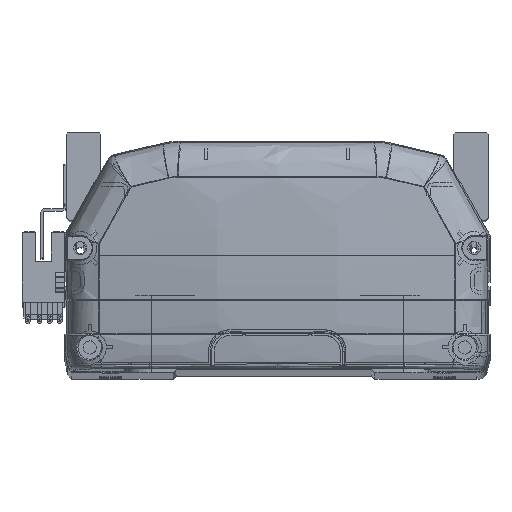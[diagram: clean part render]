
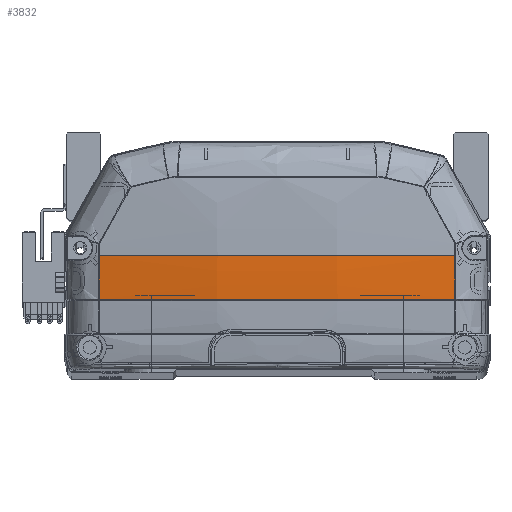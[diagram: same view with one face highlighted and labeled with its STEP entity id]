
A CAD part, top view. The second image highlights one B-rep face of the part: STEP entity #3832.
In plain terms, the highlighted free-form (B-spline) face has degree [3, 3] with [4, 4] control points.
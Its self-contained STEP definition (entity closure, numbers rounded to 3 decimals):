
#3116 = CIRCLE ( 'NONE', #40158, 6395.966 ) ;
#3739 = EDGE_CURVE ( 'NONE', #33902, #40423, #49126, .T. ) ;
#3832 = ADVANCED_FACE ( 'NONE', ( #4936 ), #13191, .T. ) ;
#4385 = ORIENTED_EDGE ( 'NONE', *, *, #57460, .F. ) ;
#4936 = FACE_OUTER_BOUND ( 'NONE', #25856, .T. ) ;
#5593 = ORIENTED_EDGE ( 'NONE', *, *, #7913, .F. ) ;
#5729 = CARTESIAN_POINT ( 'NONE',  ( -56.661, 22.225, -4.818 ) ) ;
#6479 = CARTESIAN_POINT ( 'NONE',  ( 4.761, 22.225, -9.537 ) ) ;
#6684 = CARTESIAN_POINT ( 'NONE',  ( 1.152, 22.225, -9.568 ) ) ;
#7115 = CARTESIAN_POINT ( 'NONE',  ( -19.295, 36., -11.535 ) ) ;
#7891 = CARTESIAN_POINT ( 'NONE',  ( 0., 36., 330.833 ) ) ;
#7913 = EDGE_CURVE ( 'NONE', #11005, #16929, #3116, .T. ) ;
#8736 = ORIENTED_EDGE ( 'NONE', *, *, #3739, .F. ) ;
#9935 = CARTESIAN_POINT ( 'NONE',  ( -56.647, 36., -5.158 ) ) ;
#11005 = VERTEX_POINT ( 'NONE', #31557 ) ;
#11839 = CARTESIAN_POINT ( 'NONE',  ( -19.28, 22.225, -9.565 ) ) ;
#11873 = ORIENTED_EDGE ( 'NONE', *, *, #20704, .F. ) ;
#11879 = CARTESIAN_POINT ( 'NONE',  ( 19.295, 36., -11.535 ) ) ;
#12499 = AXIS2_PLACEMENT_3D ( 'NONE', #7891, #57351, #35590 ) ;
#13191 =( BOUNDED_SURFACE ( )  B_SPLINE_SURFACE ( 3, 3, ( 
 ( #51830, #29267, #47819, #38761 ),
 ( #38960, #30256, #39344, #11879 ),
 ( #48626, #16405, #34382, #7115 ),
 ( #20919, #39549, #52422, #43494 ) ),
 .UNSPECIFIED., .F., .F., .T. ) 
 B_SPLINE_SURFACE_WITH_KNOTS ( ( 4, 4 ),
 ( 4, 4 ),
 ( 0., 1. ),
 ( 0., 1. ),
 .UNSPECIFIED. ) 
 GEOMETRIC_REPRESENTATION_ITEM ( )  RATIONAL_B_SPLINE_SURFACE ( (
 ( 1., 1., 1., 1.),
 ( 0.99, 0.99, 0.99, 0.99),
 ( 0.99, 0.99, 0.99, 0.99),
 ( 1., 1., 1., 1.) ) ) 
 REPRESENTATION_ITEM ( '' )  SURFACE ( )  );
#14955 = VERTEX_POINT ( 'NONE', #39385 ) ;
#15393 = CARTESIAN_POINT ( 'NONE',  ( 56.661, 22.225, -4.818 ) ) ;
#16294 = CIRCLE ( 'NONE', #12499, 340.733 ) ;
#16405 = CARTESIAN_POINT ( 'NONE',  ( -19.295, 26.549, -11.419 ) ) ;
#16929 = VERTEX_POINT ( 'NONE', #49917 ) ;
#17282 = DIRECTION ( 'NONE',  ( 0., 0., -1. ) ) ;
#19714 = CARTESIAN_POINT ( 'NONE',  ( 38.071, 22.225, -7.566 ) ) ;
#20704 = EDGE_CURVE ( 'NONE', #14955, #11005, #57579, .T. ) ;
#20919 = CARTESIAN_POINT ( 'NONE',  ( -57.335, 22.148, -4.7 ) ) ;
#22963 = EDGE_CURVE ( 'NONE', #14955, #40423, #26679, .T. ) ;
#23609 = ORIENTED_EDGE ( 'NONE', *, *, #22963, .T. ) ;
#24659 = CARTESIAN_POINT ( 'NONE',  ( 47.432, 22.225, -6.377 ) ) ;
#25856 = EDGE_LOOP ( 'NONE', ( #4385, #5593, #11873, #23609, #8736 ) ) ;
#26376 = CARTESIAN_POINT ( 'NONE',  ( 6452.613, 35.969, -5.158 ) ) ;
#26462 = CARTESIAN_POINT ( 'NONE',  ( -38.235, 22.225, -7.93 ) ) ;
#26679 = B_SPLINE_CURVE_WITH_KNOTS ( 'NONE', 3,
 ( #15393, #24659, #19714, #47400, #29028, #55731, #29227, #6479, #38133, #6684, #11839, #26462, #40124 ),
 .UNSPECIFIED., .F., .F.,
 ( 4, 2, 2, 1, 2, 2, 4 ),
 ( 0., 0.25, 0.375, 0.438, 0.469, 0.5, 1. ),
 .UNSPECIFIED. ) ;
#29028 = CARTESIAN_POINT ( 'NONE',  ( 19.121, 22.225, -9.064 ) ) ;
#29227 = CARTESIAN_POINT ( 'NONE',  ( 8.363, 22.225, -9.48 ) ) ;
#29267 = CARTESIAN_POINT ( 'NONE',  ( 57.335, 26.762, -4.928 ) ) ;
#30256 = CARTESIAN_POINT ( 'NONE',  ( 19.295, 26.549, -11.419 ) ) ;
#30319 = CARTESIAN_POINT ( 'NONE',  ( 56.647, 35.969, -5.158 ) ) ;
#31557 = CARTESIAN_POINT ( 'NONE',  ( 56.647, 35.969, -5.158 ) ) ;
#33902 = VERTEX_POINT ( 'NONE', #55276 ) ;
#34382 = CARTESIAN_POINT ( 'NONE',  ( -19.295, 31.274, -11.535 ) ) ;
#34847 = CARTESIAN_POINT ( 'NONE',  ( -56.661, 22.225, -4.818 ) ) ;
#35057 = CARTESIAN_POINT ( 'NONE',  ( 56.661, 22.225, -4.818 ) ) ;
#35590 = DIRECTION ( 'NONE',  ( 0., 0., -1. ) ) ;
#37174 = CARTESIAN_POINT ( 'NONE',  ( -56.652, 26.814, -5.045 ) ) ;
#38133 = CARTESIAN_POINT ( 'NONE',  ( 2.357, 22.225, -9.562 ) ) ;
#38761 = CARTESIAN_POINT ( 'NONE',  ( 57.335, 36., -5.042 ) ) ;
#38960 = CARTESIAN_POINT ( 'NONE',  ( 19.295, 21.828, -11.186 ) ) ;
#39226 = CARTESIAN_POINT ( 'NONE',  ( 56.652, 26.806, -5.044 ) ) ;
#39344 = CARTESIAN_POINT ( 'NONE',  ( 19.295, 31.274, -11.535 ) ) ;
#39385 = CARTESIAN_POINT ( 'NONE',  ( 56.661, 22.225, -4.818 ) ) ;
#39549 = CARTESIAN_POINT ( 'NONE',  ( -57.335, 26.762, -4.928 ) ) ;
#40124 = CARTESIAN_POINT ( 'NONE',  ( -56.661, 22.225, -4.818 ) ) ;
#40158 = AXIS2_PLACEMENT_3D ( 'NONE', #26376, #17282, #54099 ) ;
#40423 = VERTEX_POINT ( 'NONE', #34847 ) ;
#43494 = CARTESIAN_POINT ( 'NONE',  ( -57.335, 36., -5.042 ) ) ;
#44148 = CARTESIAN_POINT ( 'NONE',  ( 56.647, 31.387, -5.158 ) ) ;
#47400 = CARTESIAN_POINT ( 'NONE',  ( 23.877, 22.225, -8.763 ) ) ;
#47819 = CARTESIAN_POINT ( 'NONE',  ( 57.335, 31.38, -5.042 ) ) ;
#48626 = CARTESIAN_POINT ( 'NONE',  ( -19.295, 21.828, -11.186 ) ) ;
#49126 = B_SPLINE_CURVE_WITH_KNOTS ( 'NONE', 3,
 ( #9935, #50455, #37174, #5729 ),
 .UNSPECIFIED., .F., .F.,
 ( 4, 4 ),
 ( 0., 1. ),
 .UNSPECIFIED. ) ;
#49917 = CARTESIAN_POINT ( 'NONE',  ( 56.647, 36., -5.158 ) ) ;
#50455 = CARTESIAN_POINT ( 'NONE',  ( -56.647, 31.405, -5.158 ) ) ;
#51830 = CARTESIAN_POINT ( 'NONE',  ( 57.335, 22.148, -4.7 ) ) ;
#52422 = CARTESIAN_POINT ( 'NONE',  ( -57.335, 31.38, -5.042 ) ) ;
#54099 = DIRECTION ( 'NONE',  ( -1., 0., 0. ) ) ;
#55276 = CARTESIAN_POINT ( 'NONE',  ( -56.647, 36., -5.158 ) ) ;
#55731 = CARTESIAN_POINT ( 'NONE',  ( 11.954, 22.225, -9.367 ) ) ;
#57351 = DIRECTION ( 'NONE',  ( 0., 1., 0. ) ) ;
#57460 = EDGE_CURVE ( 'NONE', #16929, #33902, #16294, .T. ) ;
#57579 = B_SPLINE_CURVE_WITH_KNOTS ( 'NONE', 3,
 ( #35057, #39226, #44148, #30319 ),
 .UNSPECIFIED., .F., .F.,
 ( 4, 4 ),
 ( 0., 1. ),
 .UNSPECIFIED. ) ;
